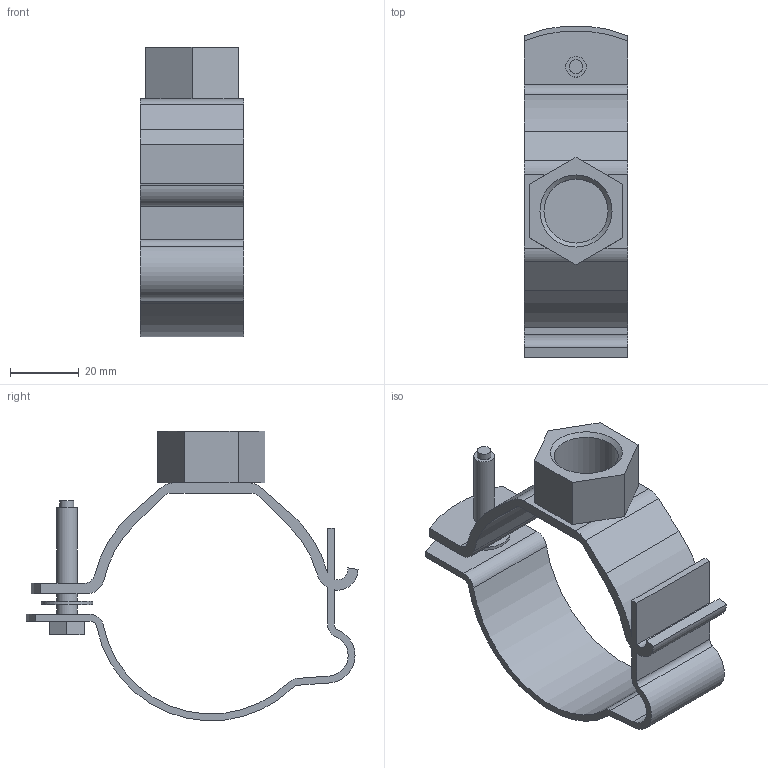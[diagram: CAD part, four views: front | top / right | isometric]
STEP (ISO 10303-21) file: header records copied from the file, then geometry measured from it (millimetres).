
FILE_DESCRIPTION( ( 'STEP AP214' ), '1' );
FILE_NAME( 'C:/Users/ilukic/Documents/ex/gebaudeentwasserung/pe/pipe bracket G1_2 adjustable/363841.stp', '2020-03-26T18:42:04', ( '' ), ( '' ), ' ', 'PARTsolutions', ' ' );
FILE_SCHEMA( ( 'AUTOMOTIVE_DESIGN { 1 0 10303 214 1 1 1 1 }' ) );
Length unit declared in the file: millimetre
Products named in the file (1): _363841
Bounding box: 30 x 96.54 x 84.16 mm (x, y, z)
Volume: 26619 mm3; surface area: 21340.6 mm2
Topology: 1 solids, 1 shells, 75 faces, 197 edges, 130 vertices
Faces by surface type: plane 42, cylinder 32, cone 1
Full cylindrical faces by diameter (mm): 4 x1, 6 x3, 15 x1, 18.631 x1
Entity records: 2900 total; most frequent: DIRECTION 406, CARTESIAN_POINT 394, ORIENTED_EDGE 378, EDGE_CURVE 189, AXIS2_PLACEMENT_3D 141, VERTEX_POINT 129, LINE 124, VECTOR 124
